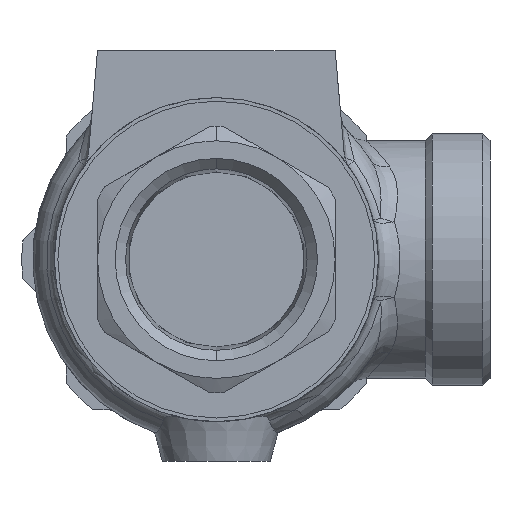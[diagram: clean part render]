
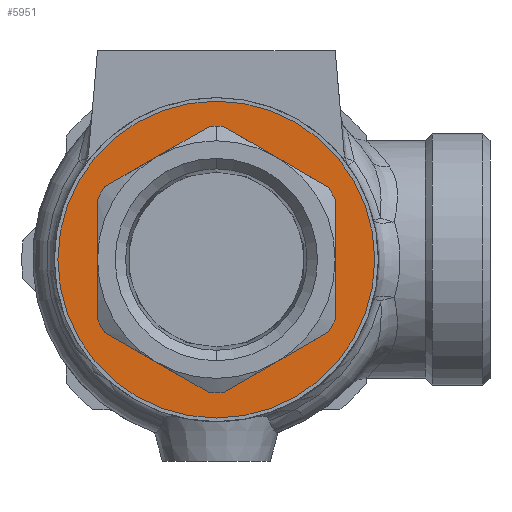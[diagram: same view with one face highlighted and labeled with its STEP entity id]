
A CAD part, front view. The second image highlights one B-rep face of the part: STEP entity #5951.
In plain terms, the highlighted planar face has unit normal (0, -1, 0).
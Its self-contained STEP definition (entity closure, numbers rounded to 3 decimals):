
#15 = DIRECTION ( 'NONE',  ( 0., 0., -1. ) ) ;
#172 = AXIS2_PLACEMENT_3D ( 'NONE', #1884, #2432, #8055 ) ;
#219 = DIRECTION ( 'NONE',  ( 0.866, 0., -0.5 ) ) ;
#318 = ORIENTED_EDGE ( 'NONE', *, *, #7697, .F. ) ;
#378 = EDGE_LOOP ( 'NONE', ( #4628, #7309, #8072, #318, #1169, #1690, #7600, #2814, #7456, #7511, #6036, #2718, #1355 ) ) ;
#392 = PLANE ( 'NONE',  #5552 ) ;
#581 = VECTOR ( 'NONE', #6661, 1000. ) ;
#625 = CARTESIAN_POINT ( 'NONE',  ( 0., -28., 0. ) ) ;
#664 = CARTESIAN_POINT ( 'NONE',  ( -1.004, -28., -18.473 ) ) ;
#683 = CARTESIAN_POINT ( 'NONE',  ( 0., -28., 0. ) ) ;
#871 = CARTESIAN_POINT ( 'NONE',  ( -24.75, -28., -4.763 ) ) ;
#978 = VERTEX_POINT ( 'NONE', #4151 ) ;
#1020 = CARTESIAN_POINT ( 'NONE',  ( -16.5, -28., 8.367 ) ) ;
#1026 = DIRECTION ( 'NONE',  ( 0., -1., 0. ) ) ;
#1141 = CARTESIAN_POINT ( 'NONE',  ( -16.5, -28., 0. ) ) ;
#1169 = ORIENTED_EDGE ( 'NONE', *, *, #2226, .F. ) ;
#1195 = EDGE_CURVE ( 'NONE', #7943, #3579, #4629, .T. ) ;
#1231 = DIRECTION ( 'NONE',  ( 0., -1., 0. ) ) ;
#1345 = CARTESIAN_POINT ( 'NONE',  ( 1.004, -28., 18.473 ) ) ;
#1355 = ORIENTED_EDGE ( 'NONE', *, *, #5678, .F. ) ;
#1402 = EDGE_CURVE ( 'NONE', #7164, #2418, #4236, .T. ) ;
#1415 = EDGE_CURVE ( 'NONE', #6056, #6443, #7231, .T. ) ;
#1454 = EDGE_CURVE ( 'NONE', #2418, #2185, #6172, .T. ) ;
#1501 = CARTESIAN_POINT ( 'NONE',  ( 0., -28., -22. ) ) ;
#1616 = DIRECTION ( 'NONE',  ( 0., 0., -1. ) ) ;
#1690 = ORIENTED_EDGE ( 'NONE', *, *, #4255, .F. ) ;
#1884 = CARTESIAN_POINT ( 'NONE',  ( 0., -28., 0. ) ) ;
#1907 = VERTEX_POINT ( 'NONE', #5713 ) ;
#1927 = CIRCLE ( 'NONE', #7673, 18.5 ) ;
#1930 = CARTESIAN_POINT ( 'NONE',  ( 16.5, -28., 8.367 ) ) ;
#1977 = CARTESIAN_POINT ( 'NONE',  ( 15.496, -28., -10.106 ) ) ;
#2005 = LINE ( 'NONE', #6205, #4282 ) ;
#2021 = LINE ( 'NONE', #871, #2728 ) ;
#2055 = DIRECTION ( 'NONE',  ( 0., 0., 1. ) ) ;
#2185 = VERTEX_POINT ( 'NONE', #3061 ) ;
#2226 = EDGE_CURVE ( 'NONE', #7397, #1907, #2324, .T. ) ;
#2242 = CARTESIAN_POINT ( 'NONE',  ( -24.75, -28., 4.763 ) ) ;
#2273 = DIRECTION ( 'NONE',  ( 0., -1., 0. ) ) ;
#2324 = CIRCLE ( 'NONE', #2577, 18.5 ) ;
#2391 = CARTESIAN_POINT ( 'NONE',  ( 0., -28., 0. ) ) ;
#2418 = VERTEX_POINT ( 'NONE', #7861 ) ;
#2432 = DIRECTION ( 'NONE',  ( 0., -1., 0. ) ) ;
#2456 = LINE ( 'NONE', #1141, #581 ) ;
#2577 = AXIS2_PLACEMENT_3D ( 'NONE', #625, #3140, #15 ) ;
#2651 = CARTESIAN_POINT ( 'NONE',  ( 0., -28., 0. ) ) ;
#2663 = CARTESIAN_POINT ( 'NONE',  ( 0., -28., 0. ) ) ;
#2665 = AXIS2_PLACEMENT_3D ( 'NONE', #3089, #1231, #5570 ) ;
#2718 = ORIENTED_EDGE ( 'NONE', *, *, #5236, .F. ) ;
#2728 = VECTOR ( 'NONE', #219, 1000. ) ;
#2814 = ORIENTED_EDGE ( 'NONE', *, *, #5302, .F. ) ;
#2885 = VERTEX_POINT ( 'NONE', #6284 ) ;
#2899 = CARTESIAN_POINT ( 'NONE',  ( -22., -28., 0. ) ) ;
#2900 = LINE ( 'NONE', #2242, #5326 ) ;
#2951 = CARTESIAN_POINT ( 'NONE',  ( 0., -28., 0. ) ) ;
#3059 = EDGE_CURVE ( 'NONE', #2885, #3410, #7435, .T. ) ;
#3061 = CARTESIAN_POINT ( 'NONE',  ( 1.004, -28., -18.473 ) ) ;
#3089 = CARTESIAN_POINT ( 'NONE',  ( 0., -28., 0. ) ) ;
#3140 = DIRECTION ( 'NONE',  ( 0., -1., 0. ) ) ;
#3217 = ORIENTED_EDGE ( 'NONE', *, *, #1195, .F. ) ;
#3289 = CARTESIAN_POINT ( 'NONE',  ( 16.5, -28., 0. ) ) ;
#3410 = VERTEX_POINT ( 'NONE', #1020 ) ;
#3520 = DIRECTION ( 'NONE',  ( 0., -1., 0. ) ) ;
#3579 = VERTEX_POINT ( 'NONE', #1501 ) ;
#3805 = DIRECTION ( 'NONE',  ( 0., 0., 1. ) ) ;
#3890 = CIRCLE ( 'NONE', #4033, 18.5 ) ;
#3896 = VECTOR ( 'NONE', #2055, 1000. ) ;
#4033 = AXIS2_PLACEMENT_3D ( 'NONE', #683, #4550, #6988 ) ;
#4151 = CARTESIAN_POINT ( 'NONE',  ( -1.004, -28., 18.473 ) ) ;
#4236 = CIRCLE ( 'NONE', #7992, 18.5 ) ;
#4255 = EDGE_CURVE ( 'NONE', #6443, #7397, #6993, .T. ) ;
#4282 = VECTOR ( 'NONE', #6901, 1000. ) ;
#4316 = AXIS2_PLACEMENT_3D ( 'NONE', #7780, #2273, #1616 ) ;
#4550 = DIRECTION ( 'NONE',  ( 0., -1., 0. ) ) ;
#4613 = EDGE_CURVE ( 'NONE', #978, #2885, #2900, .T. ) ;
#4628 = ORIENTED_EDGE ( 'NONE', *, *, #3059, .F. ) ;
#4629 = CIRCLE ( 'NONE', #5524, 22. ) ;
#4674 = DIRECTION ( 'NONE',  ( 0., 0., -1. ) ) ;
#4736 = DIRECTION ( 'NONE',  ( -0.866, 0., -0.5 ) ) ;
#4753 = EDGE_CURVE ( 'NONE', #6891, #7164, #2021, .T. ) ;
#4845 = FACE_BOUND ( 'NONE', #378, .T. ) ;
#5042 = VERTEX_POINT ( 'NONE', #1345 ) ;
#5052 = VECTOR ( 'NONE', #8036, 1000. ) ;
#5082 = ORIENTED_EDGE ( 'NONE', *, *, #5554, .F. ) ;
#5115 = EDGE_CURVE ( 'NONE', #5042, #978, #3890, .T. ) ;
#5236 = EDGE_CURVE ( 'NONE', #7913, #6891, #1927, .T. ) ;
#5301 = CARTESIAN_POINT ( 'NONE',  ( -15.496, -28., -10.106 ) ) ;
#5302 = EDGE_CURVE ( 'NONE', #2185, #6056, #6700, .T. ) ;
#5326 = VECTOR ( 'NONE', #4736, 1000. ) ;
#5378 = DIRECTION ( 'NONE',  ( 0., 0., -1. ) ) ;
#5524 = AXIS2_PLACEMENT_3D ( 'NONE', #2663, #6242, #3805 ) ;
#5552 = AXIS2_PLACEMENT_3D ( 'NONE', #2899, #3520, #5378 ) ;
#5554 = EDGE_CURVE ( 'NONE', #3579, #7943, #6853, .T. ) ;
#5570 = DIRECTION ( 'NONE',  ( 0., 0., -1. ) ) ;
#5640 = DIRECTION ( 'NONE',  ( 0., -1., 0. ) ) ;
#5678 = EDGE_CURVE ( 'NONE', #3410, #7913, #2456, .T. ) ;
#5713 = CARTESIAN_POINT ( 'NONE',  ( 15.496, -28., 10.106 ) ) ;
#5951 = ADVANCED_FACE ( 'NONE', ( #4845, #6798 ), #392, .T. ) ;
#6036 = ORIENTED_EDGE ( 'NONE', *, *, #4753, .F. ) ;
#6056 = VERTEX_POINT ( 'NONE', #1977 ) ;
#6138 = DIRECTION ( 'NONE',  ( 0., 0., -1. ) ) ;
#6172 = CIRCLE ( 'NONE', #2665, 18.5 ) ;
#6199 = CARTESIAN_POINT ( 'NONE',  ( -8.25, -28., -23.816 ) ) ;
#6205 = CARTESIAN_POINT ( 'NONE',  ( -8.25, -28., 23.816 ) ) ;
#6242 = DIRECTION ( 'NONE',  ( 0., 1., 0. ) ) ;
#6284 = CARTESIAN_POINT ( 'NONE',  ( -15.496, -28., 10.106 ) ) ;
#6370 = CARTESIAN_POINT ( 'NONE',  ( -16.5, -28., -8.367 ) ) ;
#6443 = VERTEX_POINT ( 'NONE', #8087 ) ;
#6454 = CARTESIAN_POINT ( 'NONE',  ( 0., -28., 22. ) ) ;
#6661 = DIRECTION ( 'NONE',  ( 0., 0., -1. ) ) ;
#6700 = LINE ( 'NONE', #6199, #5052 ) ;
#6798 = FACE_OUTER_BOUND ( 'NONE', #7991, .T. ) ;
#6853 = CIRCLE ( 'NONE', #6979, 22. ) ;
#6889 = DIRECTION ( 'NONE',  ( 0., 0., 1. ) ) ;
#6891 = VERTEX_POINT ( 'NONE', #5301 ) ;
#6901 = DIRECTION ( 'NONE',  ( -0.866, 0., 0.5 ) ) ;
#6979 = AXIS2_PLACEMENT_3D ( 'NONE', #2651, #7013, #6889 ) ;
#6988 = DIRECTION ( 'NONE',  ( 0., 0., -1. ) ) ;
#6993 = LINE ( 'NONE', #3289, #3896 ) ;
#7013 = DIRECTION ( 'NONE',  ( 0., 1., 0. ) ) ;
#7164 = VERTEX_POINT ( 'NONE', #664 ) ;
#7231 = CIRCLE ( 'NONE', #172, 18.5 ) ;
#7309 = ORIENTED_EDGE ( 'NONE', *, *, #4613, .F. ) ;
#7397 = VERTEX_POINT ( 'NONE', #1930 ) ;
#7435 = CIRCLE ( 'NONE', #4316, 18.5 ) ;
#7456 = ORIENTED_EDGE ( 'NONE', *, *, #1454, .F. ) ;
#7511 = ORIENTED_EDGE ( 'NONE', *, *, #1402, .F. ) ;
#7600 = ORIENTED_EDGE ( 'NONE', *, *, #1415, .F. ) ;
#7673 = AXIS2_PLACEMENT_3D ( 'NONE', #2951, #1026, #4674 ) ;
#7697 = EDGE_CURVE ( 'NONE', #1907, #5042, #2005, .T. ) ;
#7780 = CARTESIAN_POINT ( 'NONE',  ( 0., -28., 0. ) ) ;
#7861 = CARTESIAN_POINT ( 'NONE',  ( 0., -28., -18.5 ) ) ;
#7913 = VERTEX_POINT ( 'NONE', #6370 ) ;
#7943 = VERTEX_POINT ( 'NONE', #6454 ) ;
#7991 = EDGE_LOOP ( 'NONE', ( #3217, #5082 ) ) ;
#7992 = AXIS2_PLACEMENT_3D ( 'NONE', #2391, #5640, #6138 ) ;
#8036 = DIRECTION ( 'NONE',  ( 0.866, 0., 0.5 ) ) ;
#8055 = DIRECTION ( 'NONE',  ( 0., 0., -1. ) ) ;
#8072 = ORIENTED_EDGE ( 'NONE', *, *, #5115, .F. ) ;
#8087 = CARTESIAN_POINT ( 'NONE',  ( 16.5, -28., -8.367 ) ) ;
